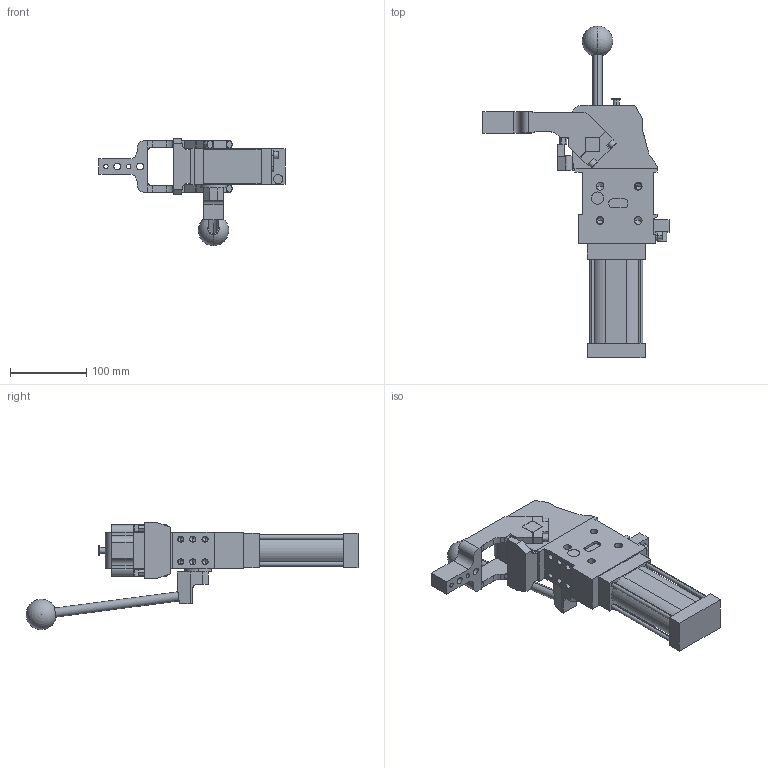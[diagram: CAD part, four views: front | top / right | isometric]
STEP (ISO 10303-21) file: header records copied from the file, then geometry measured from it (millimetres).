
FILE_DESCRIPTION (( 'STEP AP214' ), '1' );
FILE_NAME ('cplm50lbtv1ci1g_135.STEP', '2023-01-26T13:24:44', ( '' ), ( '' ), 'SwSTEP 2.0', 'SolidWorks 2022', '' );
FILE_SCHEMA (( 'AUTOMOTIVE_DESIGN' ));
Length unit declared in the file: millimetre
Products named in the file (5): meccanica_cplm_50_tassello_esterno; blocchetto_VEP_0; cplm50lbtv1ci1g_135; comando_manuale_cplm_50; leva_v1c_cpl50t
Assembly tree (4 placements, depth 2):
  cplm50lbtv1ci1g_135
    meccanica_cplm_50_tassello_esterno
    blocchetto_VEP_0
    leva_v1c_cpl50t
    comando_manuale_cplm_50
Bounding box: 244.5 x 436.23 x 141 mm (x, y, z)
Volume: 1491840.4 mm3; surface area: 186995 mm2
Topology: 4 solids, 4 shells, 468 faces, 1215 edges, 761 vertices
Faces by surface type: plane 247, cylinder 169, cone 50, sphere 2
Entity records: 15560 total; most frequent: CARTESIAN_POINT 2479, DIRECTION 2466, ORIENTED_EDGE 2328, EDGE_CURVE 1164, AXIS2_PLACEMENT_3D 835, VECTOR 796, LINE 796, VERTEX_POINT 758
